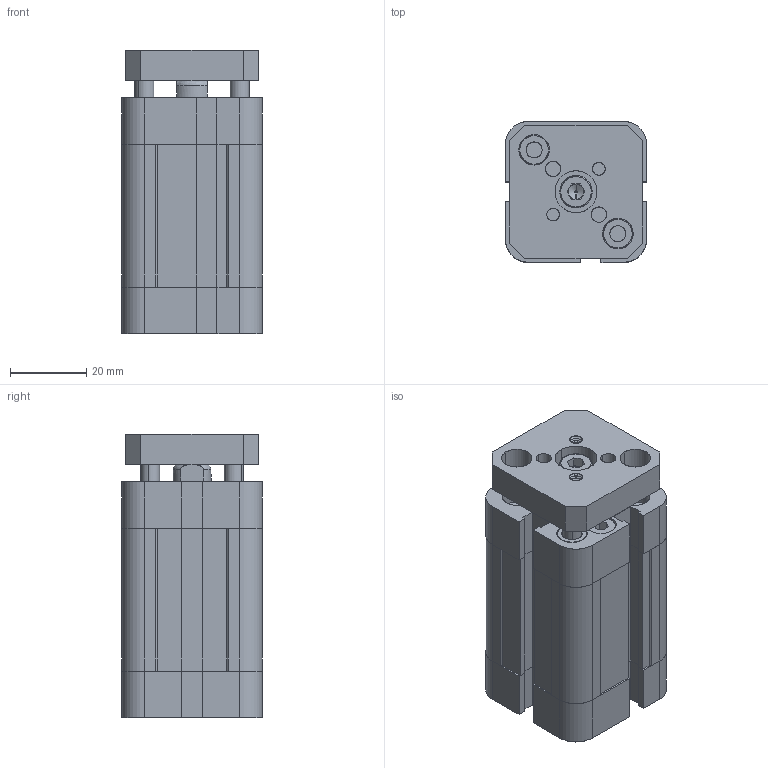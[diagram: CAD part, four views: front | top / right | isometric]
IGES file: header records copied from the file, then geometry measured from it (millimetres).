
Start section: SolidWorks IGES file using analytic representation for surfaces
Global section: file name: c:\CATALO3D\IGS\NSKI020.0025 F AR.IGS; native system: SolidWorks 2009; preprocessor: SolidWorks 2009; author: utente16; date: 100611.160044; units: millimetre
Bounding box: 37 x 37 x 74.5 mm (x, y, z)
Surface area: 35007.9 mm2 (no closed solid volume)
Topology: 0 solids, 0 shells, 659 faces, 12912 edges, 16096 vertices
Faces by surface type: revolution 337, bspline 322
